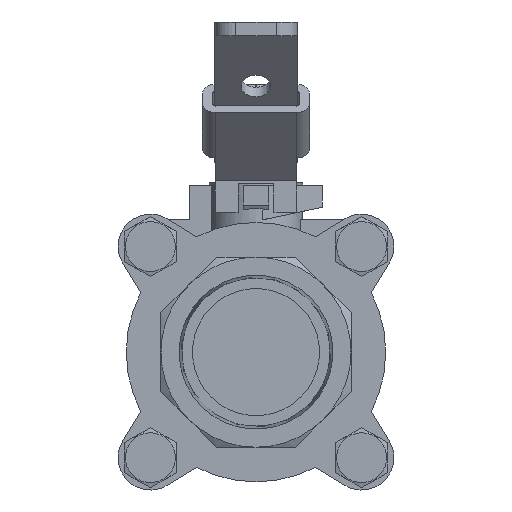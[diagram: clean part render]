
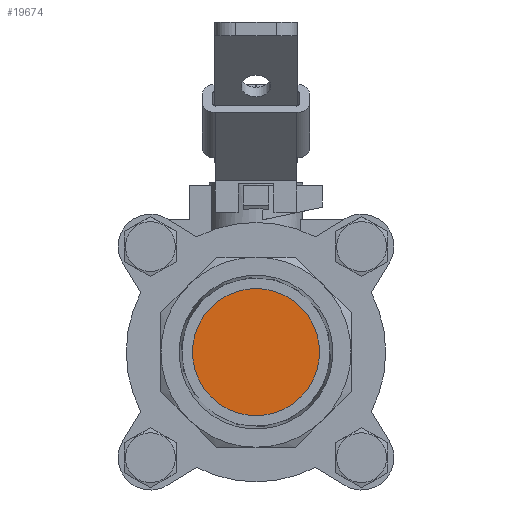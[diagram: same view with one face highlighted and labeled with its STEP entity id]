
A CAD part, left-side view. The second image highlights one B-rep face of the part: STEP entity #19674.
In plain terms, the highlighted planar face has unit normal (-1, 0, 0).
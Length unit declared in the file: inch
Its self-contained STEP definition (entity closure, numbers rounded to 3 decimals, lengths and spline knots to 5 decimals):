
#19642=CARTESIAN_POINT('',(0.05,0.26769,1.24981));
#19643=VERTEX_POINT('',#19642);
#19644=CARTESIAN_POINT('',(0.05,-1.24981,1.24981));
#19645=DIRECTION('',(1.0,0.0,0.0));
#19646=DIRECTION('',(0.0,1.0,0.0));
#19647=AXIS2_PLACEMENT_3D('',#19644,#19645,#19646);
#19648=CIRCLE('',#19647,1.5175);
#19649=EDGE_CURVE('',#19643,#19643,#19648,.T.);
#19666=CARTESIAN_POINT('',(0.05,-1.24981,1.24981));
#19667=DIRECTION('',(1.0,0.0,0.0));
#19668=DIRECTION('',(0.0,0.0,-1.0));
#19669=AXIS2_PLACEMENT_3D('',#19666,#19667,#19668);
#19670=PLANE('',#19669);
#19671=ORIENTED_EDGE('',*,*,#19649,.F.);
#19672=EDGE_LOOP('',(#19671));
#19673=FACE_OUTER_BOUND('',#19672,.T.);
#19674=ADVANCED_FACE('',(#19673),#19670,.F.);
